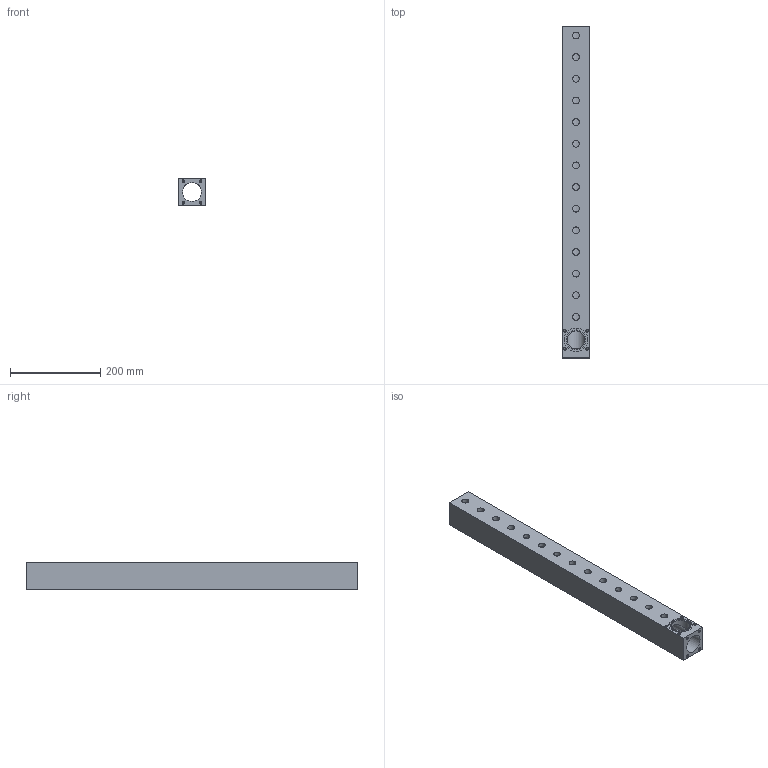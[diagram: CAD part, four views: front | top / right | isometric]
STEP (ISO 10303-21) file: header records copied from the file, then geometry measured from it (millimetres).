
FILE_DESCRIPTION(/* description */ (''),/* implementation_level */ '2;1');
FILE_NAME(/* name */ '090_manifold.stp',/* time_stamp */ '2020-01-13T11:15:17+01:00',/* author */ (''),/* organization */ (''),/* preprocessor_version */ 'ST-DEVELOPER v16.7',/* originating_system */ 'SIEMENS PLM Software NX 12.0',/* authorisation */ '');
FILE_SCHEMA (('AUTOMOTIVE_DESIGN { 1 0 10303 214 3 1 1 1 }'));
Length unit declared in the file: millimetre
Products named in the file (1): bez33CCFDAD1b3p
Bounding box: 60 x 736 x 60 mm (x, y, z)
Volume: 1581665.8 mm3; surface area: 286045 mm2
Topology: 1 solids, 1 shells, 90 faces, 292 edges, 191 vertices
Faces by surface type: cylinder 44, cone 38, plane 8
Full cylindrical faces by diameter (mm): 5 x26, 15.083 x14, 40 x1, 42 x1, 44 x1, 52 x1
Entity records: 2430 total; most frequent: CARTESIAN_POINT 616, DIRECTION 364, FACE_BOUND 230, ORIENTED_EDGE 224, EDGE_LOOP 206, AXIS2_PLACEMENT_3D 176, VERTEX_POINT 134, EDGE_CURVE 112
